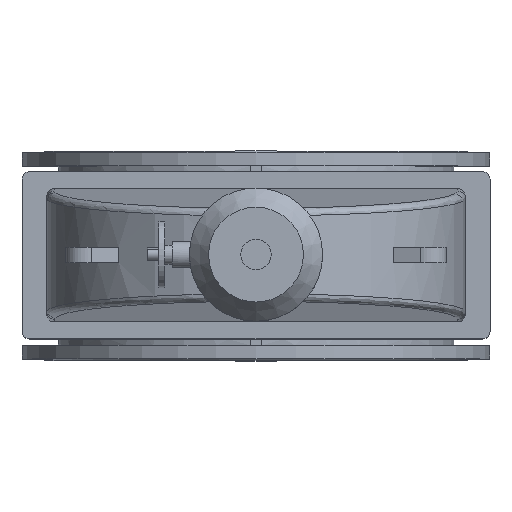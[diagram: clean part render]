
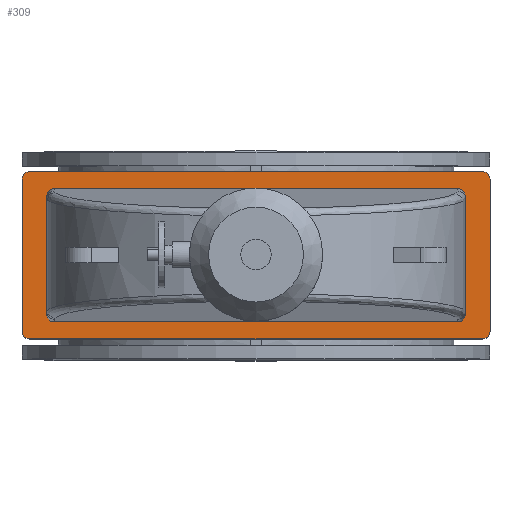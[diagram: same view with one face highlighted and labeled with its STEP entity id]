
A CAD part, top view. The second image highlights one B-rep face of the part: STEP entity #309.
In plain terms, the highlighted planar face has unit normal (0, 0, 1).
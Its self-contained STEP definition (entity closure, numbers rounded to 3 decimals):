
#309=ADVANCED_FACE('',(#3483,#3485),#3487,.T.);
#3483=FACE_BOUND('',#3484,.T.);
#3484=EDGE_LOOP('',(#7830,#7831,#7832,#7833,#7834,#7835,#7836,#7837));
#3485=FACE_BOUND('',#3486,.T.);
#3486=EDGE_LOOP('',(#7838,#7839,#7840,#7841,#7842,#7843,#7844,#7845));
#3487=PLANE('',#3488);
#3488=AXIS2_PLACEMENT_3D('',#3489,#3490,#3491);
#3489=CARTESIAN_POINT('',(0.,0.,1086.));
#3490=DIRECTION('',(0.,-0.,1.));
#3491=DIRECTION('',(0.,1.,0.));
#7830=ORIENTED_EDGE('',*,*,#9074,.F.);
#7831=ORIENTED_EDGE('',*,*,#9075,.T.);
#7832=ORIENTED_EDGE('',*,*,#9076,.F.);
#7833=ORIENTED_EDGE('',*,*,#9077,.T.);
#7834=ORIENTED_EDGE('',*,*,#9078,.F.);
#7835=ORIENTED_EDGE('',*,*,#9079,.T.);
#7836=ORIENTED_EDGE('',*,*,#9080,.F.);
#7837=ORIENTED_EDGE('',*,*,#9081,.T.);
#7838=ORIENTED_EDGE('',*,*,#9072,.F.);
#7839=ORIENTED_EDGE('',*,*,#9071,.F.);
#7840=ORIENTED_EDGE('',*,*,#9073,.F.);
#7841=ORIENTED_EDGE('',*,*,#9046,.F.);
#7842=ORIENTED_EDGE('',*,*,#9082,.F.);
#7843=ORIENTED_EDGE('',*,*,#9083,.F.);
#7844=ORIENTED_EDGE('',*,*,#9084,.F.);
#7845=ORIENTED_EDGE('',*,*,#9039,.F.);
#9039=EDGE_CURVE('',#9707,#9709,#9710,.T.);
#9046=EDGE_CURVE('',#9719,#9717,#9721,.T.);
#9071=EDGE_CURVE('',#9760,#9758,#9762,.T.);
#9072=EDGE_CURVE('',#9758,#9707,#9763,.F.);
#9073=EDGE_CURVE('',#9717,#9760,#9764,.T.);
#9074=EDGE_CURVE('',#9765,#9766,#9767,.F.);
#9075=EDGE_CURVE('',#9765,#9768,#9769,.T.);
#9076=EDGE_CURVE('',#9770,#9768,#9771,.F.);
#9077=EDGE_CURVE('',#9770,#9772,#9773,.T.);
#9078=EDGE_CURVE('',#9774,#9772,#9775,.F.);
#9079=EDGE_CURVE('',#9774,#9776,#9777,.T.);
#9080=EDGE_CURVE('',#9778,#9776,#9779,.F.);
#9081=EDGE_CURVE('',#9778,#9766,#9780,.T.);
#9082=EDGE_CURVE('',#9781,#9719,#9782,.F.);
#9083=EDGE_CURVE('',#9783,#9781,#9784,.T.);
#9084=EDGE_CURVE('',#9709,#9783,#9785,.T.);
#9707=VERTEX_POINT('',#11013);
#9709=VERTEX_POINT('',#11017);
#9710=LINE('',#11018,#11019);
#9717=VERTEX_POINT('',#11038);
#9719=VERTEX_POINT('',#11042);
#9721=LINE('',#11046,#11047);
#9758=VERTEX_POINT('',#11139);
#9760=VERTEX_POINT('',#11143);
#9762=LINE('',#11147,#11148);
#9763=(BOUNDED_CURVE()B_SPLINE_CURVE(3,
(#11150,#11151,#11152,#11153),
.UNSPECIFIED.,.F.,.F.)B_SPLINE_CURVE_WITH_KNOTS((4,4),
(0.,1.),
.UNSPECIFIED.)CURVE()GEOMETRIC_REPRESENTATION_ITEM()RATIONAL_B_SPLINE_CURVE((1.,
0.805,0.805,1.))REPRESENTATION_ITEM(''));
#9764=(BOUNDED_CURVE()B_SPLINE_CURVE(3,
(#11154,#11155,#11156,#11157),
.UNSPECIFIED.,.F.,.F.)B_SPLINE_CURVE_WITH_KNOTS((4,4),
(0.,1.),
.UNSPECIFIED.)CURVE()GEOMETRIC_REPRESENTATION_ITEM()RATIONAL_B_SPLINE_CURVE((1.,
0.805,0.805,1.))REPRESENTATION_ITEM(''));
#9765=VERTEX_POINT('',#11158);
#9766=VERTEX_POINT('',#11159);
#9767=CIRCLE('',#11160,20.);
#9768=VERTEX_POINT('',#11164);
#9769=LINE('',#11165,#11166);
#9770=VERTEX_POINT('',#11168);
#9771=CIRCLE('',#11169,20.);
#9772=VERTEX_POINT('',#11173);
#9773=LINE('',#11174,#11175);
#9774=VERTEX_POINT('',#11177);
#9775=CIRCLE('',#11178,20.);
#9776=VERTEX_POINT('',#11182);
#9777=LINE('',#11183,#11184);
#9778=VERTEX_POINT('',#11186);
#9779=CIRCLE('',#11187,20.);
#9780=LINE('',#11191,#11192);
#9781=VERTEX_POINT('',#11194);
#9782=(BOUNDED_CURVE()B_SPLINE_CURVE(3,
(#11195,#11196,#11197,#11198),
.UNSPECIFIED.,.F.,.F.)B_SPLINE_CURVE_WITH_KNOTS((4,4),
(0.,1.),
.UNSPECIFIED.)CURVE()GEOMETRIC_REPRESENTATION_ITEM()RATIONAL_B_SPLINE_CURVE((1.,
0.805,0.805,1.))REPRESENTATION_ITEM(''));
#9783=VERTEX_POINT('',#11199);
#9784=LINE('',#11200,#11201);
#9785=(BOUNDED_CURVE()B_SPLINE_CURVE(3,
(#11203,#11204,#11205,#11206),
.UNSPECIFIED.,.F.,.F.)B_SPLINE_CURVE_WITH_KNOTS((4,4),
(0.,1.),
.UNSPECIFIED.)CURVE()GEOMETRIC_REPRESENTATION_ITEM()RATIONAL_B_SPLINE_CURVE((1.,
0.805,0.805,1.))REPRESENTATION_ITEM(''));
#11013=CARTESIAN_POINT('',(550.,-154.924,1086.));
#11017=CARTESIAN_POINT('',(550.,154.924,1086.));
#11018=CARTESIAN_POINT('',(550.,-154.924,1086.));
#11019=VECTOR('',#11020,1.);
#11020=DIRECTION('',(0.,1.,0.));
#11038=CARTESIAN_POINT('',(-550.,-154.924,1086.));
#11042=CARTESIAN_POINT('',(-550.,154.924,1086.));
#11046=CARTESIAN_POINT('',(-550.,154.924,1086.));
#11047=VECTOR('',#11048,1.);
#11048=DIRECTION('',(0.,-1.,0.));
#11139=CARTESIAN_POINT('',(530.,-175.,1086.));
#11143=CARTESIAN_POINT('',(-530.,-175.,1086.));
#11147=CARTESIAN_POINT('',(-530.,-175.,1086.));
#11148=VECTOR('',#11149,1.);
#11149=DIRECTION('',(1.,0.,0.));
#11150=CARTESIAN_POINT('',(550.,-154.924,1086.));
#11151=CARTESIAN_POINT('',(550.,-166.684,1086.));
#11152=CARTESIAN_POINT('',(541.716,-175.,1086.));
#11153=CARTESIAN_POINT('',(530.,-175.,1086.));
#11154=CARTESIAN_POINT('',(-550.,-154.924,1086.));
#11155=CARTESIAN_POINT('',(-550.,-166.684,1086.));
#11156=CARTESIAN_POINT('',(-541.716,-175.,1086.));
#11157=CARTESIAN_POINT('',(-530.,-175.,1086.));
#11158=CARTESIAN_POINT('',(-595.,-220.,1086.));
#11159=CARTESIAN_POINT('',(-615.,-200.,1086.));
#11160=AXIS2_PLACEMENT_3D('',#11161,#11162,#11163);
#11161=CARTESIAN_POINT('',(-595.,-200.,1086.));
#11162=DIRECTION('',(0.,-0.,1.));
#11163=DIRECTION('',(-1.,0.,0.));
#11164=CARTESIAN_POINT('',(595.,-220.,1086.));
#11165=CARTESIAN_POINT('',(-595.,-220.,1086.));
#11166=VECTOR('',#11167,1.);
#11167=DIRECTION('',(1.,0.,0.));
#11168=CARTESIAN_POINT('',(615.,-200.,1086.));
#11169=AXIS2_PLACEMENT_3D('',#11170,#11171,#11172);
#11170=CARTESIAN_POINT('',(595.,-200.,1086.));
#11171=DIRECTION('',(0.,-0.,1.));
#11172=DIRECTION('',(0.,-1.,0.));
#11173=CARTESIAN_POINT('',(615.,200.,1086.));
#11174=CARTESIAN_POINT('',(615.,-200.,1086.));
#11175=VECTOR('',#11176,1.);
#11176=DIRECTION('',(0.,1.,0.));
#11177=CARTESIAN_POINT('',(595.,220.,1086.));
#11178=AXIS2_PLACEMENT_3D('',#11179,#11180,#11181);
#11179=CARTESIAN_POINT('',(595.,200.,1086.));
#11180=DIRECTION('',(0.,-0.,1.));
#11181=DIRECTION('',(1.,0.,0.));
#11182=CARTESIAN_POINT('',(-595.,220.,1086.));
#11183=CARTESIAN_POINT('',(595.,220.,1086.));
#11184=VECTOR('',#11185,1.);
#11185=DIRECTION('',(-1.,0.,0.));
#11186=CARTESIAN_POINT('',(-615.,200.,1086.));
#11187=AXIS2_PLACEMENT_3D('',#11188,#11189,#11190);
#11188=CARTESIAN_POINT('',(-595.,200.,1086.));
#11189=DIRECTION('',(0.,-0.,1.));
#11190=DIRECTION('',(0.,1.,0.));
#11191=CARTESIAN_POINT('',(-615.,200.,1086.));
#11192=VECTOR('',#11193,1.);
#11193=DIRECTION('',(0.,-1.,0.));
#11194=CARTESIAN_POINT('',(-530.,175.,1086.));
#11195=CARTESIAN_POINT('',(-550.,154.924,1086.));
#11196=CARTESIAN_POINT('',(-550.,166.684,1086.));
#11197=CARTESIAN_POINT('',(-541.716,175.,1086.));
#11198=CARTESIAN_POINT('',(-530.,175.,1086.));
#11199=CARTESIAN_POINT('',(530.,175.,1086.));
#11200=CARTESIAN_POINT('',(530.,175.,1086.));
#11201=VECTOR('',#11202,1.);
#11202=DIRECTION('',(-1.,0.,0.));
#11203=CARTESIAN_POINT('',(550.,154.924,1086.));
#11204=CARTESIAN_POINT('',(550.,166.684,1086.));
#11205=CARTESIAN_POINT('',(541.716,175.,1086.));
#11206=CARTESIAN_POINT('',(530.,175.,1086.));
